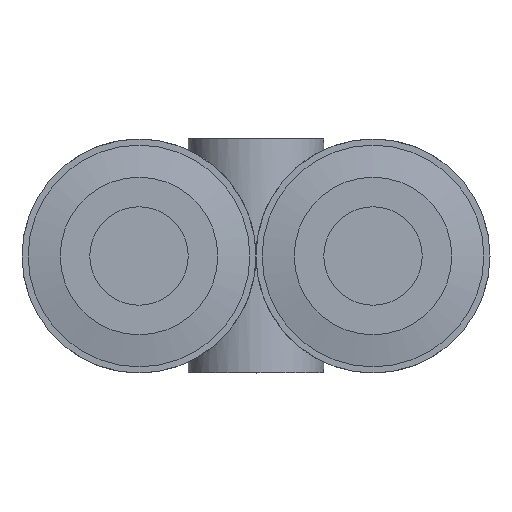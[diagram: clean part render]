
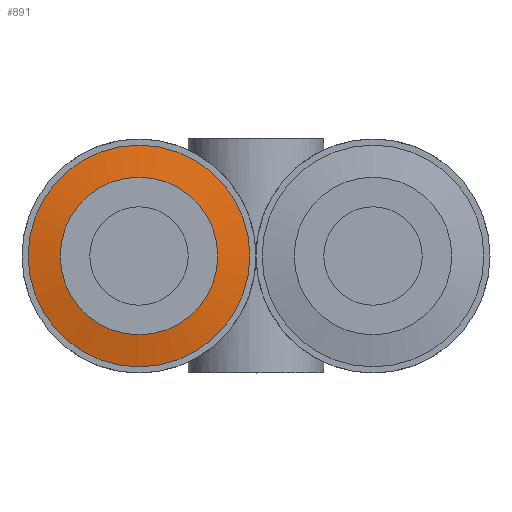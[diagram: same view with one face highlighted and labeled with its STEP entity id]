
A CAD part, front view. The second image highlights one B-rep face of the part: STEP entity #891.
In plain terms, the highlighted conical face has half-angle 80 degrees and reference radius 3.85 mm.
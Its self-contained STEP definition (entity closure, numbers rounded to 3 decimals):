
#857=CARTESIAN_POINT('',(-0.25,-12.971,0.0));
#858=VERTEX_POINT('',#857);
#859=CARTESIAN_POINT('',(-4.75,-12.971,0.0));
#860=DIRECTION('',(0.0,-1.0,0.0));
#861=DIRECTION('',(1.0,0.0,0.0));
#862=AXIS2_PLACEMENT_3D('',#859,#860,#861);
#863=CIRCLE('',#862,4.5);
#864=EDGE_CURVE('',#858,#858,#863,.T.);
#872=CARTESIAN_POINT('',(-4.75,-13.085,0.0));
#873=DIRECTION('',(0.,1.0,0.0));
#874=DIRECTION('',(1.0,0.0,0.0));
#875=AXIS2_PLACEMENT_3D('',#872,#873,#874);
#876=CONICAL_SURFACE('',#875,3.85,80.);
#877=CARTESIAN_POINT('',(-1.55,-13.2,0.0));
#878=VERTEX_POINT('',#877);
#879=CARTESIAN_POINT('',(-4.75,-13.2,0.0));
#880=DIRECTION('',(0.0,-1.0,0.0));
#881=DIRECTION('',(1.0,0.0,0.0));
#882=AXIS2_PLACEMENT_3D('',#879,#880,#881);
#883=CIRCLE('',#882,3.2);
#884=EDGE_CURVE('',#878,#878,#883,.T.);
#885=ORIENTED_EDGE('',*,*,#884,.F.);
#886=EDGE_LOOP('',(#885));
#887=FACE_OUTER_BOUND('',#886,.T.);
#888=ORIENTED_EDGE('',*,*,#864,.T.);
#889=EDGE_LOOP('',(#888));
#890=FACE_BOUND('',#889,.T.);
#891=ADVANCED_FACE('',(#887,#890),#876,.T.);
